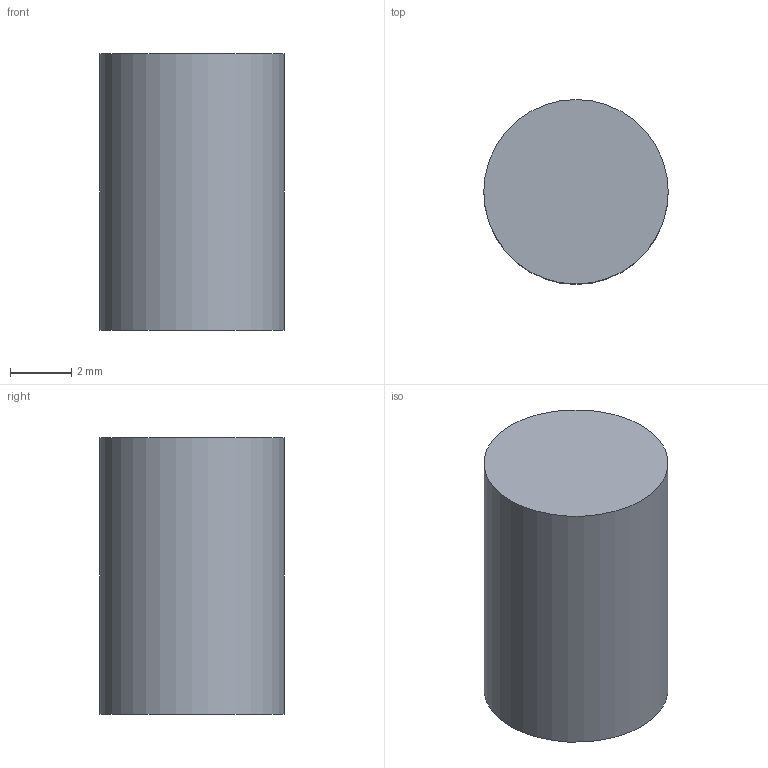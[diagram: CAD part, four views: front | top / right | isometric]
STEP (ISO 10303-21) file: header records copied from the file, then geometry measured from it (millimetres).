
FILE_DESCRIPTION(('Open CASCADE Model'),'2;1');
FILE_NAME('Open CASCADE Shape Model','2026-10-04T01:02:30',('Author'),( 'Open CASCADE'),'Open CASCADE STEP processor 8.0','Open CASCADE 8.0' ,'Unknown');
FILE_SCHEMA(('AUTOMOTIVE_DESIGN { 1 0 10303 214 1 1 1 1 }'));
Length unit declared in the file: millimetre
Products named in the file (1): Open CASCADE STEP translator 8.0 209
Bounding box: 6 x 6 x 9 mm (x, y, z)
Volume: 254.5 mm3; surface area: 226.2 mm2
Topology: 1 solids, 1 shells, 3 faces, 3 edges, 2 vertices
Faces by surface type: plane 2, cylinder 1
Full cylindrical faces by diameter (mm): 6 x1
Entity records: 108 total; most frequent: DIRECTION 19, CARTESIAN_POINT 15, AXIS2_PLACEMENT_3D 6, ORIENTED_EDGE 6, PCURVE 6, DEFINITIONAL_REPRESENTATION 6, LINE 5, VECTOR 5
